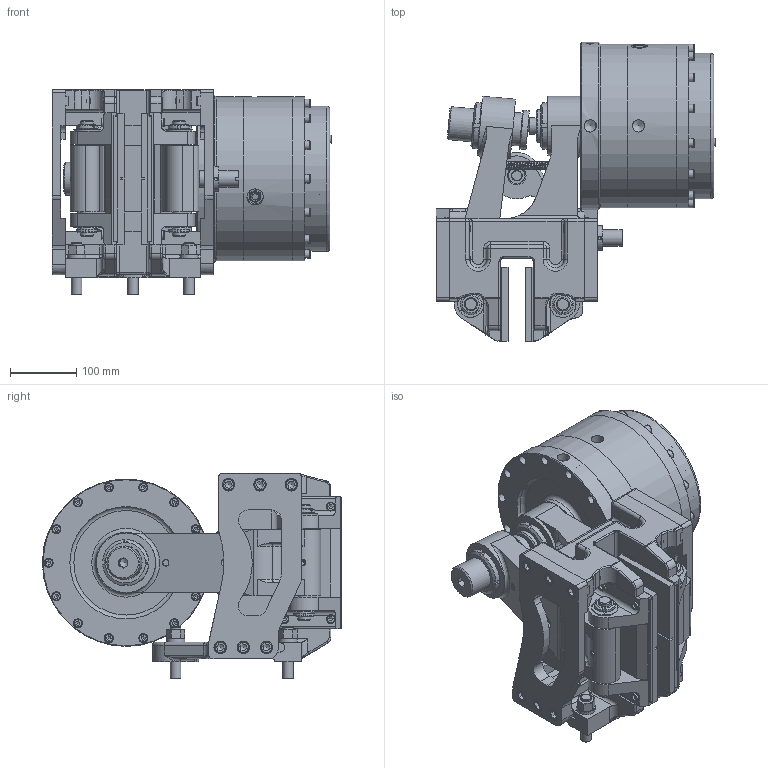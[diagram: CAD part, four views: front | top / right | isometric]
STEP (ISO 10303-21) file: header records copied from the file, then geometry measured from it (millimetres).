
FILE_DESCRIPTION(/* description */ ('','CAx-IF Rec.Pracs.---Representation and Presentation of Product Manufacturing Information (PMI)---4.0---2014-10-13'),/* implementation_level */ '2;1');
FILE_NAME(/* name */ 'X:\INVENTOR\DISEGNI\19_Pinze\STEP x Sito\PNEUM-NEGATIVE-PR\19_76_064_04 PPT-N064_25,4_PR.stp',/* time_stamp */ '2018-10-25T16:39:50+02:00',/* author */ ('stefano'),/* organization */ (''),/* preprocessor_version */ 'ST-DEVELOPER v17',/* originating_system */ 'Autodesk Inventor 2018',/* authorisation */ '');
FILE_SCHEMA (('AP242_MANAGED_MODEL_BASED_3D_ENGINEERING_MIM_LF { 1 0 10303 442 1 1 4 }'));
Products named in the file (1): 19_76_064_04 PPT-N064_25,4_PR_Substitute_1
Bounding box: 423.1 x 452.5 x 310 mm (x, y, z)
Volume: 12528908.4 mm3; surface area: 1577663.9 mm2
Topology: 1 solids, 1 shells, 2159 faces, 5963 edges, 3941 vertices
Faces by surface type: plane 1078, cylinder 606, torus 214, cone 209, bspline 32, sphere 20
Full cylindrical faces by diameter (mm): 1.8 x2, 4.917 x6, 5 x4, 5.25 x4, 6.3 x6, 6.647 x1, 6.917 x1, 7.4 x1, 7.5 x2, 8 x8, 8.25 x1, 8.376 x1, 8.5 x8, 8.917 x2, 9 x1, 9.188 x1, 10 x6, 10.106 x5, 10.5 x5, 11.445 x2, 12 x16, 12.5 x13, 13 x36, 13.157 x2, 13.5 x22, 14 x1, 15 x2, 16 x6, 16.5 x4, 17 x3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
Entity records: 81533 total; most frequent: CARTESIAN_POINT 24410, ORIENTED_EDGE 11736, DIRECTION 11732, EDGE_CURVE 5868, AXIS2_PLACEMENT_3D 4550, VERTEX_POINT 3941, LINE 2632, VECTOR 2632
